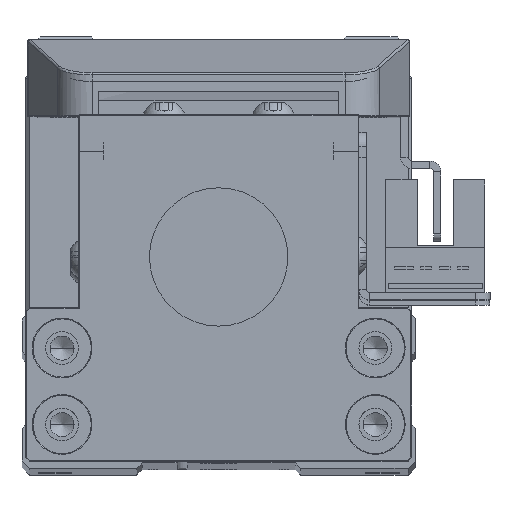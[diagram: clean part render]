
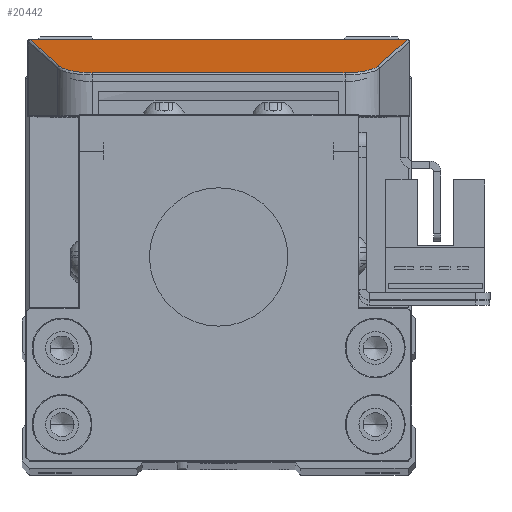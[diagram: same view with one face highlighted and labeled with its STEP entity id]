
A CAD part, top view. The second image highlights one B-rep face of the part: STEP entity #20442.
In plain terms, the highlighted planar face has unit normal (0, 0.962, 0.274) as drawn and (0, 0.274, 0.962) by its records, which use the part's own axes.
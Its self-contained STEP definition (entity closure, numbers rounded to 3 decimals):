
#752 = DIRECTION ( 'NONE',  ( 1., 0., 0. ) ) ;
#887 = CARTESIAN_POINT ( 'NONE',  ( -25.876, 9.269, -0.077 ) ) ;
#1258 = VERTEX_POINT ( 'NONE', #6872 ) ;
#1314 = EDGE_CURVE ( 'NONE', #29842, #1258, #9495, .T. ) ;
#2207 = CARTESIAN_POINT ( 'NONE',  ( 17.344, 25.282, -4.638 ) ) ;
#2808 = EDGE_CURVE ( 'NONE', #11568, #29842, #17642, .T. ) ;
#2915 = CARTESIAN_POINT ( 'NONE',  ( 25.876, 9.269, -0.077 ) ) ;
#4129 = CARTESIAN_POINT ( 'NONE',  ( -22.655, 19.393, -2.96 ) ) ;
#5098 = AXIS2_PLACEMENT_3D ( 'NONE', #28745, #13857, #31230 ) ;
#5735 = CARTESIAN_POINT ( 'NONE',  ( 26.25, 9.269, -0.077 ) ) ;
#6160 = EDGE_CURVE ( 'NONE', #29774, #7075, #19383, .T. ) ;
#6208 = CARTESIAN_POINT ( 'NONE',  ( -21.179, 24.03, -4.281 ) ) ;
#6264 = VECTOR ( 'NONE', #21500, 1000. ) ;
#6872 = CARTESIAN_POINT ( 'NONE',  ( 17.344, 25.282, -4.638 ) ) ;
#7075 = VERTEX_POINT ( 'NONE', #20276 ) ;
#7943 = CARTESIAN_POINT ( 'NONE',  ( 21.823, 22.007, -3.705 ) ) ;
#8387 = EDGE_CURVE ( 'NONE', #7075, #22433, #14104, .T. ) ;
#8651 = CARTESIAN_POINT ( 'NONE',  ( -17.344, 25.282, -4.638 ) ) ;
#9479 = VECTOR ( 'NONE', #24864, 1000. ) ;
#9495 =( BOUNDED_CURVE ( )  B_SPLINE_CURVE ( 3, ( #29396, #14519, #17001, #2207 ),
 .UNSPECIFIED., .F., .F. ) 
 B_SPLINE_CURVE_WITH_KNOTS ( ( 4, 4 ),
 ( 5.02, 6.283 ),
 .UNSPECIFIED. ) 
 CURVE ( )  GEOMETRIC_REPRESENTATION_ITEM ( )  RATIONAL_B_SPLINE_CURVE ( ( 1., 0.871, 0.871, 1. ) ) 
 REPRESENTATION_ITEM ( '' )  );
#9673 = LINE ( 'NONE', #5735, #15447 ) ;
#9733 = VERTEX_POINT ( 'NONE', #8651 ) ;
#10690 = FACE_OUTER_BOUND ( 'NONE', #11923, .T. ) ;
#10720 = CARTESIAN_POINT ( 'NONE',  ( -25.872, 9.281, -0.08 ) ) ;
#10903 = CARTESIAN_POINT ( 'NONE',  ( 25.87, 9.287, -0.082 ) ) ;
#11568 = VERTEX_POINT ( 'NONE', #30975 ) ;
#11923 = EDGE_LOOP ( 'NONE', ( #14924, #21086, #22814, #23422, #31948, #20301, #18963, #30272 ) ) ;
#11951 = VERTEX_POINT ( 'NONE', #2915 ) ;
#13534 = CARTESIAN_POINT ( 'NONE',  ( -17.344, 25.282, -4.638 ) ) ;
#13857 = DIRECTION ( 'NONE',  ( 0., -0.274, -0.962 ) ) ;
#14104 =( BOUNDED_CURVE ( )  B_SPLINE_CURVE ( 3, ( #28048, #10720, #15656, #887 ),
 .UNSPECIFIED., .F., .T. ) 
 B_SPLINE_CURVE_WITH_KNOTS ( ( 4, 4 ),
 ( 1.263, 1.274 ),
 .UNSPECIFIED. ) 
 CURVE ( )  GEOMETRIC_REPRESENTATION_ITEM ( )  RATIONAL_B_SPLINE_CURVE ( ( 1., 1., 1., 1. ) ) 
 REPRESENTATION_ITEM ( '' )  );
#14132 = EDGE_CURVE ( 'NONE', #1258, #9733, #18355, .T. ) ;
#14519 = CARTESIAN_POINT ( 'NONE',  ( 21.179, 24.03, -4.281 ) ) ;
#14924 = ORIENTED_EDGE ( 'NONE', *, *, #29273, .T. ) ;
#15447 = VECTOR ( 'NONE', #752, 1000. ) ;
#15656 = CARTESIAN_POINT ( 'NONE',  ( -25.874, 9.275, -0.078 ) ) ;
#15729 = CARTESIAN_POINT ( 'NONE',  ( 25.876, 9.269, -0.077 ) ) ;
#16024 = CARTESIAN_POINT ( 'NONE',  ( -19.466, 25.282, -4.638 ) ) ;
#16600 = EDGE_CURVE ( 'NONE', #11951, #11568, #24636, .T. ) ;
#17001 = CARTESIAN_POINT ( 'NONE',  ( 19.466, 25.282, -4.638 ) ) ;
#17642 = LINE ( 'NONE', #31606, #25049 ) ;
#18355 = LINE ( 'NONE', #22332, #9479 ) ;
#18963 = ORIENTED_EDGE ( 'NONE', *, *, #6160, .T. ) ;
#19383 = LINE ( 'NONE', #4129, #6264 ) ;
#20276 = CARTESIAN_POINT ( 'NONE',  ( -25.87, 9.287, -0.082 ) ) ;
#20301 = ORIENTED_EDGE ( 'NONE', *, *, #23727, .T. ) ;
#20442 = ADVANCED_FACE ( 'NONE', ( #10690 ), #23618, .F. ) ;
#21086 = ORIENTED_EDGE ( 'NONE', *, *, #16600, .T. ) ;
#21500 = DIRECTION ( 'NONE',  ( -0.293, -0.92, 0.262 ) ) ;
#21618 = DIRECTION ( 'NONE',  ( -0.293, 0.92, -0.262 ) ) ;
#22332 = CARTESIAN_POINT ( 'NONE',  ( -17.344, 25.282, -4.638 ) ) ;
#22433 = VERTEX_POINT ( 'NONE', #27036 ) ;
#22814 = ORIENTED_EDGE ( 'NONE', *, *, #2808, .T. ) ;
#23422 = ORIENTED_EDGE ( 'NONE', *, *, #1314, .T. ) ;
#23496 = CARTESIAN_POINT ( 'NONE',  ( -21.823, 22.007, -3.705 ) ) ;
#23618 = PLANE ( 'NONE',  #5098 ) ;
#23727 = EDGE_CURVE ( 'NONE', #9733, #29774, #31398, .T. ) ;
#24636 =( BOUNDED_CURVE ( )  B_SPLINE_CURVE ( 3, ( #15729, #30611, #25731, #10903 ),
 .UNSPECIFIED., .F., .T. ) 
 B_SPLINE_CURVE_WITH_KNOTS ( ( 4, 4 ),
 ( 5.009, 5.02 ),
 .UNSPECIFIED. ) 
 CURVE ( )  GEOMETRIC_REPRESENTATION_ITEM ( )  RATIONAL_B_SPLINE_CURVE ( ( 1., 1., 1., 1. ) ) 
 REPRESENTATION_ITEM ( '' )  );
#24864 = DIRECTION ( 'NONE',  ( -1., 0., 0. ) ) ;
#25049 = VECTOR ( 'NONE', #21618, 1000. ) ;
#25731 = CARTESIAN_POINT ( 'NONE',  ( 25.872, 9.281, -0.08 ) ) ;
#27036 = CARTESIAN_POINT ( 'NONE',  ( -25.876, 9.269, -0.077 ) ) ;
#27446 = CARTESIAN_POINT ( 'NONE',  ( -21.823, 22.007, -3.705 ) ) ;
#28048 = CARTESIAN_POINT ( 'NONE',  ( -25.87, 9.287, -0.082 ) ) ;
#28745 = CARTESIAN_POINT ( 'NONE',  ( -43.406, 25.5, -4.7 ) ) ;
#29273 = EDGE_CURVE ( 'NONE', #22433, #11951, #9673, .T. ) ;
#29396 = CARTESIAN_POINT ( 'NONE',  ( 21.823, 22.007, -3.705 ) ) ;
#29774 = VERTEX_POINT ( 'NONE', #27446 ) ;
#29842 = VERTEX_POINT ( 'NONE', #7943 ) ;
#30272 = ORIENTED_EDGE ( 'NONE', *, *, #8387, .T. ) ;
#30611 = CARTESIAN_POINT ( 'NONE',  ( 25.874, 9.275, -0.078 ) ) ;
#30975 = CARTESIAN_POINT ( 'NONE',  ( 25.87, 9.287, -0.082 ) ) ;
#31230 = DIRECTION ( 'NONE',  ( 0., 0.962, -0.274 ) ) ;
#31398 =( BOUNDED_CURVE ( )  B_SPLINE_CURVE ( 3, ( #13534, #16024, #6208, #23496 ),
 .UNSPECIFIED., .F., .F. ) 
 B_SPLINE_CURVE_WITH_KNOTS ( ( 4, 4 ),
 ( 0., 1.263 ),
 .UNSPECIFIED. ) 
 CURVE ( )  GEOMETRIC_REPRESENTATION_ITEM ( )  RATIONAL_B_SPLINE_CURVE ( ( 1., 0.871, 0.871, 1. ) ) 
 REPRESENTATION_ITEM ( '' )  );
#31606 = CARTESIAN_POINT ( 'NONE',  ( 15.221, 42.754, -9.615 ) ) ;
#31948 = ORIENTED_EDGE ( 'NONE', *, *, #14132, .T. ) ;
